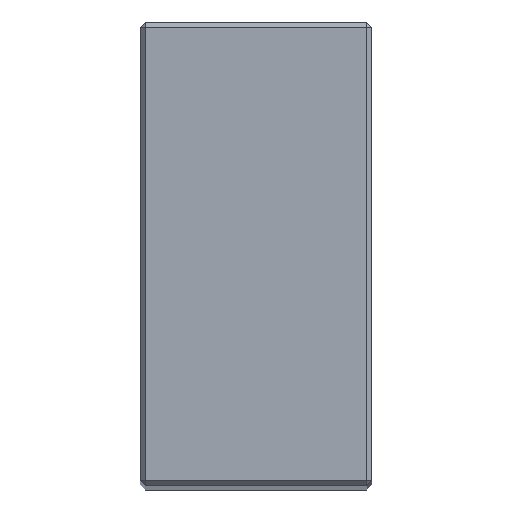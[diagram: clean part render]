
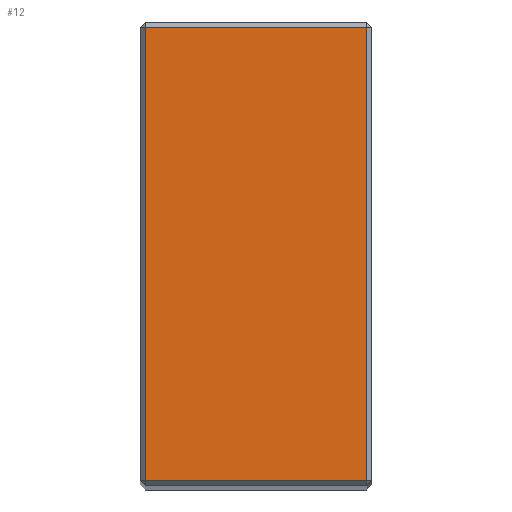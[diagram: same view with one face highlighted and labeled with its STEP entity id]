
A CAD part, top view. The second image highlights one B-rep face of the part: STEP entity #12.
In plain terms, the highlighted planar face has unit normal (0, 0, 1).
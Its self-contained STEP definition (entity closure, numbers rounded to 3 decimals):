
#12 = ADVANCED_FACE ( 'NONE', ( #593 ), #462, .F. ) ;
#15 = VECTOR ( 'NONE', #258, 1000. ) ;
#22 = CARTESIAN_POINT ( 'NONE',  ( 21.5, 86., 223. ) ) ;
#47 = LINE ( 'NONE', #358, #15 ) ;
#76 = VECTOR ( 'NONE', #454, 1000. ) ;
#110 = CARTESIAN_POINT ( 'NONE',  ( -20.5, 1., 223. ) ) ;
#139 = DIRECTION ( 'NONE',  ( 0., 0., -1. ) ) ;
#141 = ORIENTED_EDGE ( 'NONE', *, *, #501, .T. ) ;
#150 = LINE ( 'NONE', #604, #515 ) ;
#160 = CARTESIAN_POINT ( 'NONE',  ( -21.5, 85., 223. ) ) ;
#204 = VERTEX_POINT ( 'NONE', #110 ) ;
#257 = EDGE_CURVE ( 'NONE', #470, #559, #514, .T. ) ;
#258 = DIRECTION ( 'NONE',  ( 0., 1., 0. ) ) ;
#260 = VECTOR ( 'NONE', #630, 1000. ) ;
#263 = DIRECTION ( 'NONE',  ( 1., 0., 0. ) ) ;
#314 = VERTEX_POINT ( 'NONE', #477 ) ;
#318 = LINE ( 'NONE', #634, #260 ) ;
#358 = CARTESIAN_POINT ( 'NONE',  ( 20.5, 86., 223. ) ) ;
#359 = EDGE_CURVE ( 'NONE', #314, #470, #47, .T. ) ;
#377 = EDGE_LOOP ( 'NONE', ( #521, #490, #141, #583 ) ) ;
#386 = CARTESIAN_POINT ( 'NONE',  ( -20.5, 85., 223. ) ) ;
#409 = EDGE_CURVE ( 'NONE', #559, #204, #318, .T. ) ;
#426 = DIRECTION ( 'NONE',  ( -1., 0., 0. ) ) ;
#454 = DIRECTION ( 'NONE',  ( -1., 0., 0. ) ) ;
#462 = PLANE ( 'NONE',  #532 ) ;
#470 = VERTEX_POINT ( 'NONE', #546 ) ;
#477 = CARTESIAN_POINT ( 'NONE',  ( 20.5, 1., 223. ) ) ;
#490 = ORIENTED_EDGE ( 'NONE', *, *, #409, .T. ) ;
#501 = EDGE_CURVE ( 'NONE', #204, #314, #150, .T. ) ;
#514 = LINE ( 'NONE', #160, #76 ) ;
#515 = VECTOR ( 'NONE', #263, 1000. ) ;
#521 = ORIENTED_EDGE ( 'NONE', *, *, #257, .T. ) ;
#532 = AXIS2_PLACEMENT_3D ( 'NONE', #22, #139, #426 ) ;
#546 = CARTESIAN_POINT ( 'NONE',  ( 20.5, 85., 223. ) ) ;
#559 = VERTEX_POINT ( 'NONE', #386 ) ;
#583 = ORIENTED_EDGE ( 'NONE', *, *, #359, .T. ) ;
#593 = FACE_OUTER_BOUND ( 'NONE', #377, .T. ) ;
#604 = CARTESIAN_POINT ( 'NONE',  ( 21.5, 1., 223. ) ) ;
#630 = DIRECTION ( 'NONE',  ( 0., -1., 0. ) ) ;
#634 = CARTESIAN_POINT ( 'NONE',  ( -20.5, 86., 223. ) ) ;
